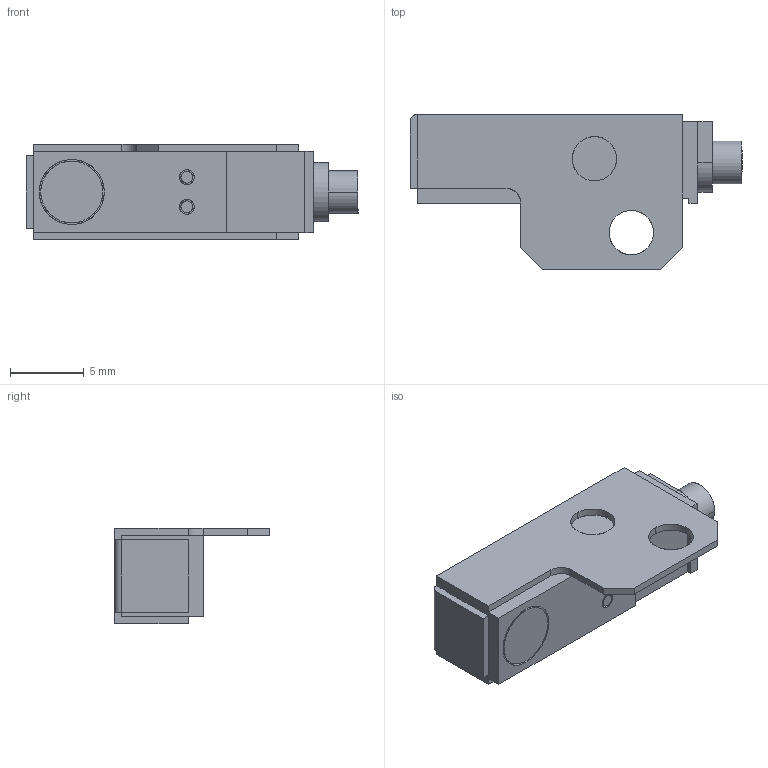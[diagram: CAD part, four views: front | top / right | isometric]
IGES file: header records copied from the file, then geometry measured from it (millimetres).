
Start section: SolidWorks IGES file using analytic representation for surfaces
Global section: file name: C:\Documents and Settings\CAD56\デスクトップ\２０１０則武編集\New CHK-E\023014\023014.IGS,41HSolidWorks; native system: 2006 by SolidWorks Corporation; preprocessor: SolidWorks 2006 by SolidWorks Corporation; author: CAD56; date: 100609.181728; units: millimetre
Bounding box: 22.5 x 10.5 x 6.5 mm (x, y, z)
Surface area: 1090 mm2 (no closed solid volume)
Topology: 0 solids, 0 shells, 58 faces, 667 edges, 667 vertices
Faces by surface type: bspline 35, revolution 23
